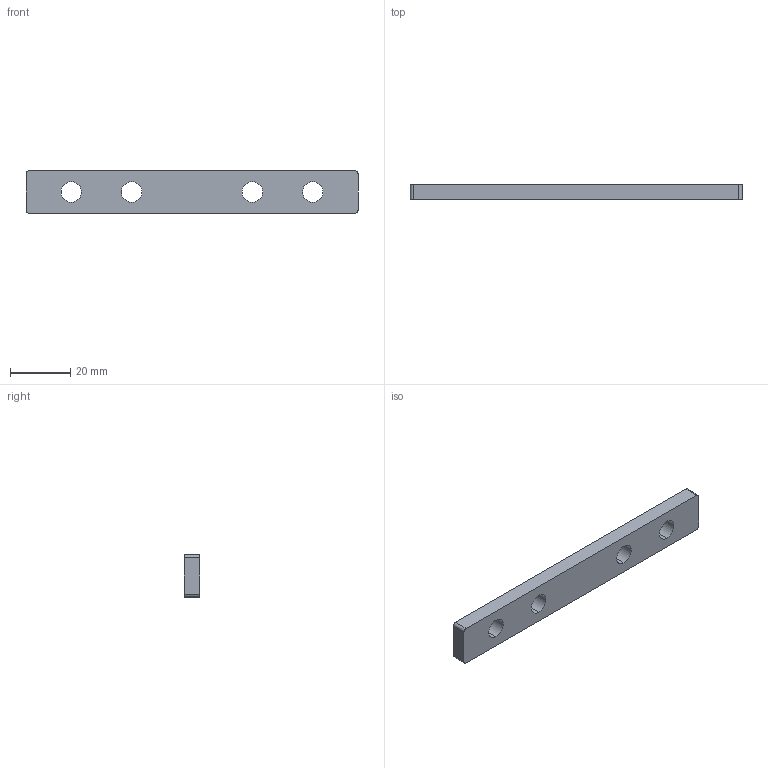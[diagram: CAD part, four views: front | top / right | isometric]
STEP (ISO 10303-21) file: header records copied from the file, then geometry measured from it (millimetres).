
FILE_DESCRIPTION (( 'STEP AP203' ), '1' );
FILE_NAME ('DLN-08.STEP', '2020-10-14T05:34:21', ( '' ), ( '' ), 'SwSTEP 2.0', 'SolidWorks 2017', '' );
FILE_SCHEMA (( 'CONFIG_CONTROL_DESIGN' ));
Length unit declared in the file: millimetre
Products named in the file (1): DLN-08
Bounding box: 110 x 5 x 14 mm (x, y, z)
Volume: 6969.4 mm3; surface area: 4446.4 mm2
Topology: 1 solids, 1 shells, 18 faces, 48 edges, 32 vertices
Faces by surface type: cylinder 12, plane 6
Entity records: 669 total; most frequent: DIRECTION 110, CARTESIAN_POINT 99, ORIENTED_EDGE 96, EDGE_CURVE 48, AXIS2_PLACEMENT_3D 43, VERTEX_POINT 32, EDGE_LOOP 26, CIRCLE 24
